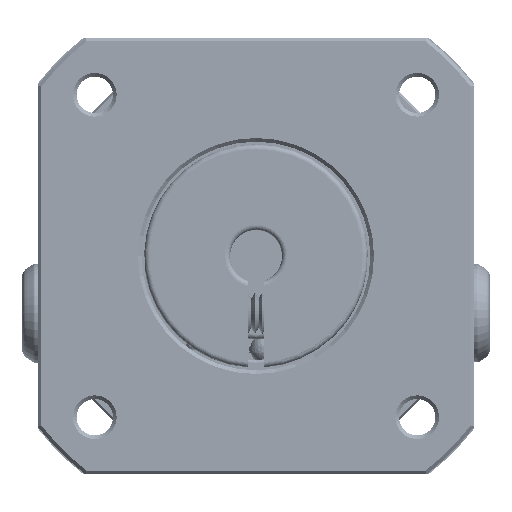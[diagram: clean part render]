
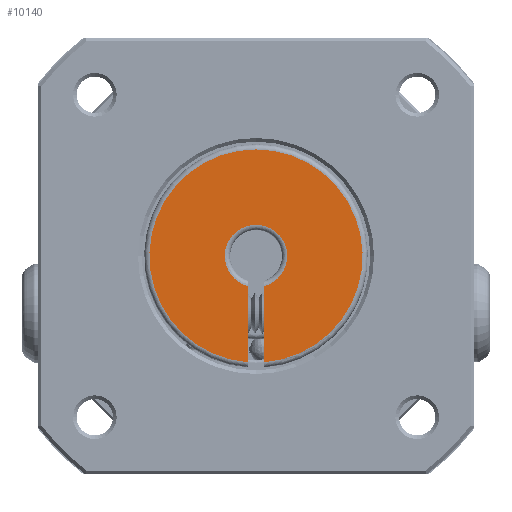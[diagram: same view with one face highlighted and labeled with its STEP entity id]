
A CAD part, left-side view. The second image highlights one B-rep face of the part: STEP entity #10140.
In plain terms, the highlighted planar face has unit normal (-1, 0, 0).
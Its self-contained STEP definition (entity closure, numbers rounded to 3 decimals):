
#578 = CARTESIAN_POINT ( 'NONE',  ( 0., 0., 0. ) ) ;
#883 = DIRECTION ( 'NONE',  ( -1., 0., 0. ) ) ;
#2572 = CARTESIAN_POINT ( 'NONE',  ( 0., -0.75, -2.905 ) ) ;
#3710 = CARTESIAN_POINT ( 'NONE',  ( 0., -0.75, 0. ) ) ;
#4309 = CIRCLE ( 'NONE', #52907, 10.25 ) ;
#9819 = DIRECTION ( 'NONE',  ( 1., 0., 0. ) ) ;
#10140 = ADVANCED_FACE ( 'NONE', ( #75105 ), #69415, .F. ) ;
#10171 = LINE ( 'NONE', #51039, #33937 ) ;
#16709 = ORIENTED_EDGE ( 'NONE', *, *, #82718, .F. ) ;
#17350 = VERTEX_POINT ( 'NONE', #20176 ) ;
#19290 = AXIS2_PLACEMENT_3D ( 'NONE', #578, #58427, #53175 ) ;
#19460 = CARTESIAN_POINT ( 'NONE',  ( 0., -0.75, -10.223 ) ) ;
#20176 = CARTESIAN_POINT ( 'NONE',  ( 0., 0.75, -2.905 ) ) ;
#20580 = DIRECTION ( 'NONE',  ( 0., 0., 1. ) ) ;
#23013 = VERTEX_POINT ( 'NONE', #2572 ) ;
#23690 = DIRECTION ( 'NONE',  ( 0., 0., 1. ) ) ;
#24831 = CIRCLE ( 'NONE', #67894, 3. ) ;
#26244 = CIRCLE ( 'NONE', #19290, 10.25 ) ;
#26583 = ORIENTED_EDGE ( 'NONE', *, *, #46893, .T. ) ;
#32026 = VERTEX_POINT ( 'NONE', #82644 ) ;
#33612 = VERTEX_POINT ( 'NONE', #19460 ) ;
#33937 = VECTOR ( 'NONE', #38014, 1000. ) ;
#35844 = CARTESIAN_POINT ( 'NONE',  ( 0., 0., 3. ) ) ;
#36534 = DIRECTION ( 'NONE',  ( -1., 0., 0. ) ) ;
#38014 = DIRECTION ( 'NONE',  ( 0., 0., 1. ) ) ;
#40800 = VERTEX_POINT ( 'NONE', #35844 ) ;
#41820 = EDGE_CURVE ( 'NONE', #40800, #17350, #24831, .T. ) ;
#42456 = DIRECTION ( 'NONE',  ( 0., 0., -1. ) ) ;
#46805 = ORIENTED_EDGE ( 'NONE', *, *, #51893, .T. ) ;
#46893 = EDGE_CURVE ( 'NONE', #32026, #63133, #4309, .T. ) ;
#46980 = CARTESIAN_POINT ( 'NONE',  ( 0., 0., 0. ) ) ;
#49574 = CARTESIAN_POINT ( 'NONE',  ( 0., 0., 0. ) ) ;
#51039 = CARTESIAN_POINT ( 'NONE',  ( 0., 0.75, 0. ) ) ;
#51893 = EDGE_CURVE ( 'NONE', #63133, #17350, #10171, .T. ) ;
#52907 = AXIS2_PLACEMENT_3D ( 'NONE', #54350, #883, #85703 ) ;
#53175 = DIRECTION ( 'NONE',  ( 0., 0., 1. ) ) ;
#53406 = AXIS2_PLACEMENT_3D ( 'NONE', #62870, #9819, #42456 ) ;
#54350 = CARTESIAN_POINT ( 'NONE',  ( 0., 0., 0. ) ) ;
#58427 = DIRECTION ( 'NONE',  ( -1., 0., 0. ) ) ;
#58566 = CARTESIAN_POINT ( 'NONE',  ( 0., 0.75, -10.223 ) ) ;
#61443 = VECTOR ( 'NONE', #23690, 1000. ) ;
#62870 = CARTESIAN_POINT ( 'NONE',  ( 0., 3., 0. ) ) ;
#63133 = VERTEX_POINT ( 'NONE', #58566 ) ;
#63653 = ORIENTED_EDGE ( 'NONE', *, *, #83885, .F. ) ;
#64377 = AXIS2_PLACEMENT_3D ( 'NONE', #49574, #36534, #20580 ) ;
#67894 = AXIS2_PLACEMENT_3D ( 'NONE', #46980, #80897, #73493 ) ;
#69415 = PLANE ( 'NONE',  #53406 ) ;
#73493 = DIRECTION ( 'NONE',  ( 0., 0., 1. ) ) ;
#74129 = CIRCLE ( 'NONE', #64377, 3. ) ;
#75105 = FACE_OUTER_BOUND ( 'NONE', #84000, .T. ) ;
#78392 = EDGE_CURVE ( 'NONE', #33612, #32026, #26244, .T. ) ;
#79917 = ORIENTED_EDGE ( 'NONE', *, *, #41820, .F. ) ;
#80897 = DIRECTION ( 'NONE',  ( -1., 0., 0. ) ) ;
#82644 = CARTESIAN_POINT ( 'NONE',  ( 0., 0., 10.25 ) ) ;
#82718 = EDGE_CURVE ( 'NONE', #33612, #23013, #83295, .T. ) ;
#83295 = LINE ( 'NONE', #3710, #61443 ) ;
#83885 = EDGE_CURVE ( 'NONE', #23013, #40800, #74129, .T. ) ;
#84000 = EDGE_LOOP ( 'NONE', ( #63653, #16709, #85210, #26583, #46805, #79917 ) ) ;
#85210 = ORIENTED_EDGE ( 'NONE', *, *, #78392, .T. ) ;
#85703 = DIRECTION ( 'NONE',  ( 0., 0., 1. ) ) ;
